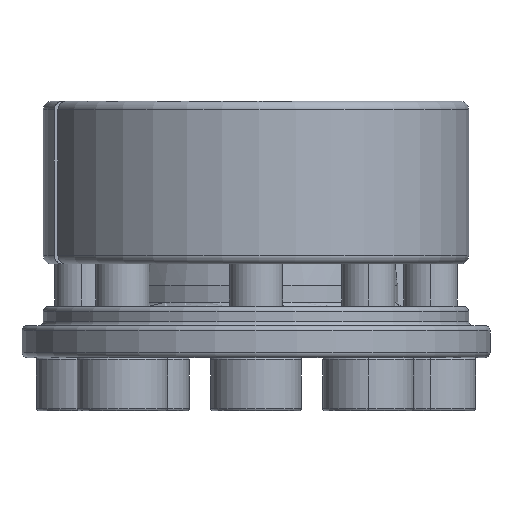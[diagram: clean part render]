
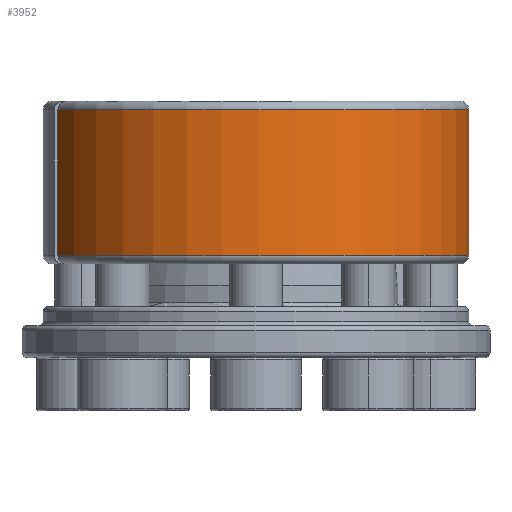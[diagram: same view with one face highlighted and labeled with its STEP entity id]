
A CAD part, front view. The second image highlights one B-rep face of the part: STEP entity #3952.
In plain terms, the highlighted cylindrical face has radius 20 mm (diameter 40 mm), a partial arc.
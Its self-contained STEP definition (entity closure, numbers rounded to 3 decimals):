
#502 = EDGE_CURVE ( 'NONE', #3592, #3648, #6181, .T. ) ;
#571 = EDGE_CURVE ( 'NONE', #6725, #6625, #6258, .T. ) ;
#605 = EDGE_CURVE ( 'NONE', #6625, #3648, #6297, .T. ) ;
#659 = AXIS2_PLACEMENT_3D ( 'NONE', #9522, #9521, #9520 ) ;
#966 = LINE ( 'NONE', #7902, #968 ) ;
#968 = VECTOR ( 'NONE', #7903, 1000. ) ;
#1185 = ORIENTED_EDGE ( 'NONE', *, *, #571, .T. ) ;
#1186 = ORIENTED_EDGE ( 'NONE', *, *, #605, .T. ) ;
#1187 = ORIENTED_EDGE ( 'NONE', *, *, #502, .F. ) ;
#1188 = ORIENTED_EDGE ( 'NONE', *, *, #10584, .T. ) ;
#2906 = AXIS2_PLACEMENT_3D ( 'NONE', #10143, #10146, #10147 ) ;
#3384 = DIRECTION ( 'NONE',  ( 1., 0., 0. ) ) ;
#3415 = DIRECTION ( 'NONE',  ( 0., 0., 1. ) ) ;
#3495 = CARTESIAN_POINT ( 'NONE',  ( 0., 0., -0.8 ) ) ;
#3592 = VERTEX_POINT ( 'NONE', #10680 ) ;
#3648 = VERTEX_POINT ( 'NONE', #10605 ) ;
#3952 = ADVANCED_FACE ( 'NONE', ( #10237 ), #10239, .T. ) ;
#3971 = CARTESIAN_POINT ( 'NONE',  ( 20., 0., -14.5 ) ) ;
#6181 = CIRCLE ( 'NONE', #9021, 20. ) ;
#6258 = CIRCLE ( 'NONE', #659, 20. ) ;
#6290 = VECTOR ( 'NONE', #9393, 1000. ) ;
#6297 = LINE ( 'NONE', #9414, #6290 ) ;
#6625 = VERTEX_POINT ( 'NONE', #3971 ) ;
#6725 = VERTEX_POINT ( 'NONE', #6942 ) ;
#6942 = CARTESIAN_POINT ( 'NONE',  ( -18.617, -7.308, -14.5 ) ) ;
#7304 = EDGE_LOOP ( 'NONE', ( #1185, #1186, #1187, #1188 ) ) ;
#7902 = CARTESIAN_POINT ( 'NONE',  ( -18.617, -7.308, 1.5 ) ) ;
#7903 = DIRECTION ( 'NONE',  ( 0., 0., -1. ) ) ;
#9021 = AXIS2_PLACEMENT_3D ( 'NONE', #3495, #3415, #3384 ) ;
#9393 = DIRECTION ( 'NONE',  ( 0., 0., 1. ) ) ;
#9414 = CARTESIAN_POINT ( 'NONE',  ( 20., 0., 1.5 ) ) ;
#9520 = DIRECTION ( 'NONE',  ( 1., 0., 0. ) ) ;
#9521 = DIRECTION ( 'NONE',  ( 0., 0., 1. ) ) ;
#9522 = CARTESIAN_POINT ( 'NONE',  ( 0., 0., -14.5 ) ) ;
#10143 = CARTESIAN_POINT ( 'NONE',  ( 0., 0., 1.5 ) ) ;
#10146 = DIRECTION ( 'NONE',  ( 0., 0., 1. ) ) ;
#10147 = DIRECTION ( 'NONE',  ( 1., 0., 0. ) ) ;
#10237 = FACE_OUTER_BOUND ( 'NONE', #7304, .T. ) ;
#10239 = CYLINDRICAL_SURFACE ( 'NONE', #2906, 20. ) ;
#10584 = EDGE_CURVE ( 'NONE', #3592, #6725, #966, .T. ) ;
#10605 = CARTESIAN_POINT ( 'NONE',  ( 20., 0., -0.8 ) ) ;
#10680 = CARTESIAN_POINT ( 'NONE',  ( -18.617, -7.308, -0.8 ) ) ;
